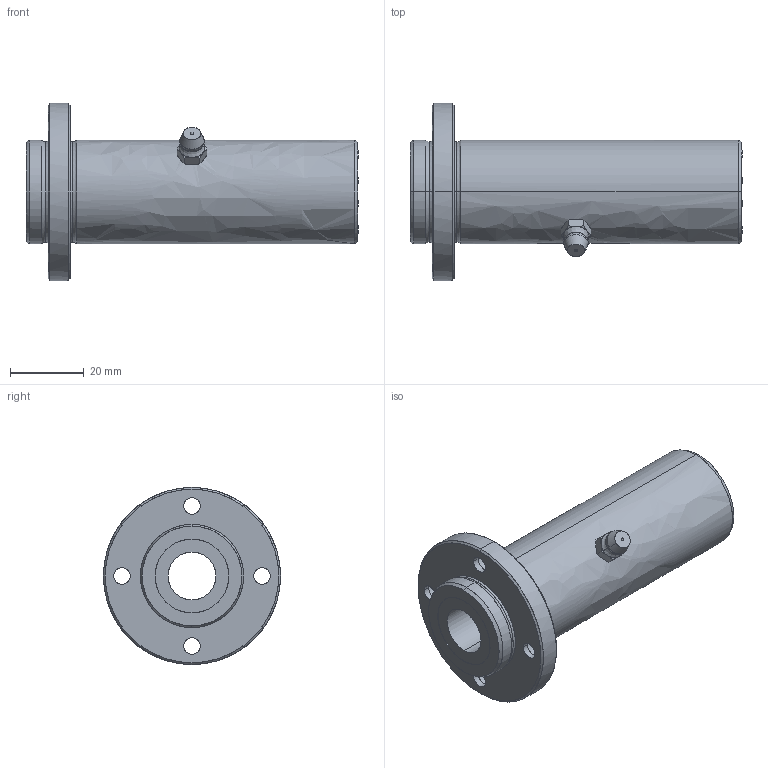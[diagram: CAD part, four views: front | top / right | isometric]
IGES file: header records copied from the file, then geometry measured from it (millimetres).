
Global section: file name: No Iges File Name specified; native system: AutoDesk Inventor R10; preprocessor: AutoDesk Inventor Iges Exporter R10; author: No Author specified; organization: No Organization specified; date: 20101211.162308; units: millimetre
Bounding box: 90 x 48 x 48 mm (x, y, z)
Surface area: 15816.4 mm2 (no closed solid volume)
Topology: 0 solids, 0 shells, 92 faces, 611 edges, 609 vertices
Faces by surface type: bspline 92
